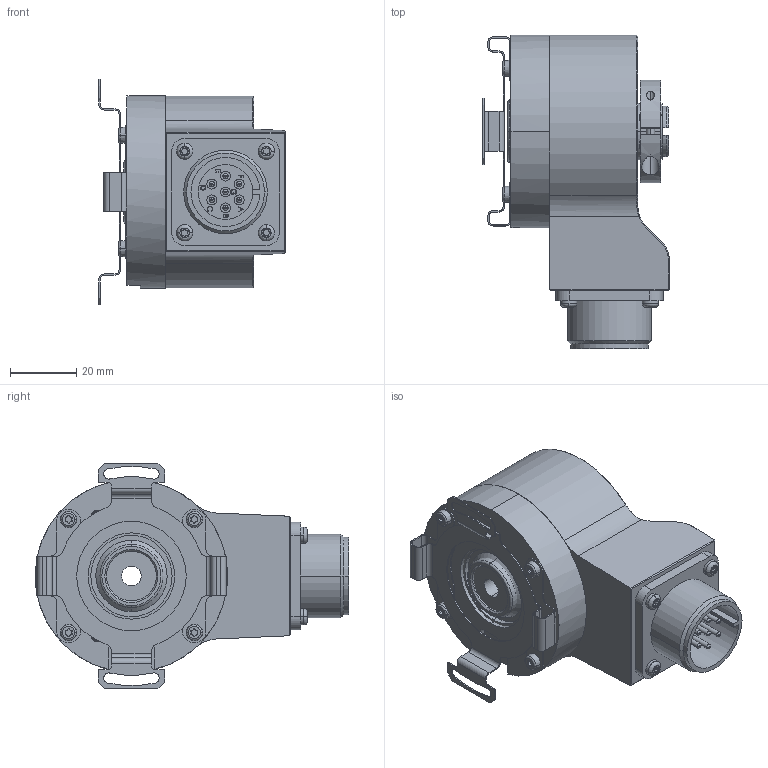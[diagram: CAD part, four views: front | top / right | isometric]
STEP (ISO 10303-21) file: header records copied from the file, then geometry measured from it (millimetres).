
FILE_DESCRIPTION (( 'STEP AP203' ), '1' );
FILE_NAME ('K58I.OXX.XXXXX.XC22506.6XRCD.step', '2025-12-08T12:09:29', ( '' ), ( '' ), 'SwSTEP 2.0', 'SolidWorks 2021', '' );
FILE_SCHEMA (( 'CONFIG_CONTROL_DESIGN' ));
Length unit declared in the file: millimetre
Products named in the file (1): K58I.OXX.XXXXX.XC22506.6XRCD
Bounding box: 56.19 x 94.5 x 68 mm (x, y, z)
Volume: 136856.2 mm3; surface area: 44772 mm2
Topology: 8 solids, 8 shells, 792 faces, 1981 edges, 1246 vertices
Faces by surface type: cylinder 344, plane 307, cone 61, bspline 50, torus 30
Entity records: 27628 total; most frequent: CARTESIAN_POINT 8478, DIRECTION 4087, ORIENTED_EDGE 3934, EDGE_CURVE 1967, AXIS2_PLACEMENT_3D 1539, VERTEX_POINT 1246, VECTOR 1009, LINE 1009
